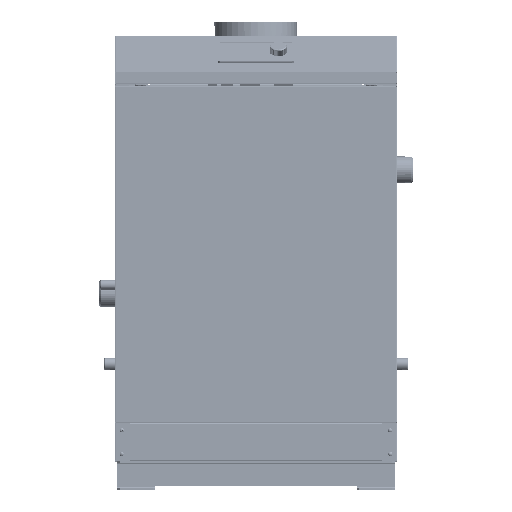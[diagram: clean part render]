
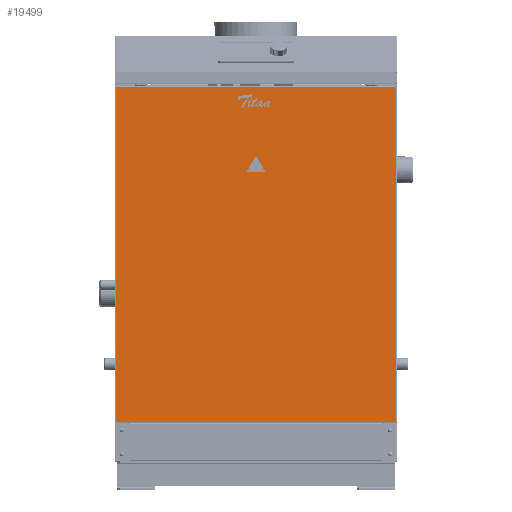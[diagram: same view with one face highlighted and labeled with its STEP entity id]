
A CAD part, top view. The second image highlights one B-rep face of the part: STEP entity #19499.
In plain terms, the highlighted planar face has unit normal (0, 0, 1) as drawn and (0, 1, 0) by its records, which use the part's own axes.
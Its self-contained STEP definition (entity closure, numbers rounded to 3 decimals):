
#19499=ADVANCED_FACE('',(#54685),#54687,.T.);
#54685=FACE_BOUND('',#54686,.T.);
#54686=EDGE_LOOP('',(#81211,#81212,#81213,#81214));
#54687=PLANE('',#54688);
#54688=AXIS2_PLACEMENT_3D('',#54689,#54690,#54691);
#54689=CARTESIAN_POINT('',(-0.,1.,0.));
#54690=DIRECTION('',(0.,1.,0.));
#54691=DIRECTION('',(-1.,0.,0.));
#81211=ORIENTED_EDGE('',*,*,#95789,.T.);
#81212=ORIENTED_EDGE('',*,*,#95810,.T.);
#81213=ORIENTED_EDGE('',*,*,#95813,.T.);
#81214=ORIENTED_EDGE('',*,*,#95819,.T.);
#95789=EDGE_CURVE('',#112053,#112022,#112063,.T.);
#95810=EDGE_CURVE('',#112022,#112019,#112093,.T.);
#95813=EDGE_CURVE('',#112019,#112045,#112097,.T.);
#95819=EDGE_CURVE('',#112045,#112053,#112105,.T.);
#112019=VERTEX_POINT('',#171503);
#112022=VERTEX_POINT('',#171531);
#112045=VERTEX_POINT('',#171628);
#112053=VERTEX_POINT('',#171667);
#112063=LINE('',#171733,#171734);
#112093=LINE('',#171807,#171808);
#112097=LINE('',#171817,#171818);
#112105=LINE('',#171837,#171838);
#171503=CARTESIAN_POINT('',(-295.5,1.,353.5));
#171531=CARTESIAN_POINT('',(-295.5,1.,-353.5));
#171628=CARTESIAN_POINT('',(295.5,1.,353.5));
#171667=CARTESIAN_POINT('',(295.5,1.,-353.5));
#171733=CARTESIAN_POINT('',(295.5,1.,-353.5));
#171734=VECTOR('',#171735,1.);
#171735=DIRECTION('',(-1.,0.,0.));
#171807=CARTESIAN_POINT('',(-295.5,1.,-353.5));
#171808=VECTOR('',#171809,1.);
#171809=DIRECTION('',(0.,0.,1.));
#171817=CARTESIAN_POINT('',(-295.5,1.,353.5));
#171818=VECTOR('',#171819,1.);
#171819=DIRECTION('',(1.,0.,0.));
#171837=CARTESIAN_POINT('',(295.5,1.,353.5));
#171838=VECTOR('',#171839,1.);
#171839=DIRECTION('',(0.,0.,-1.));
